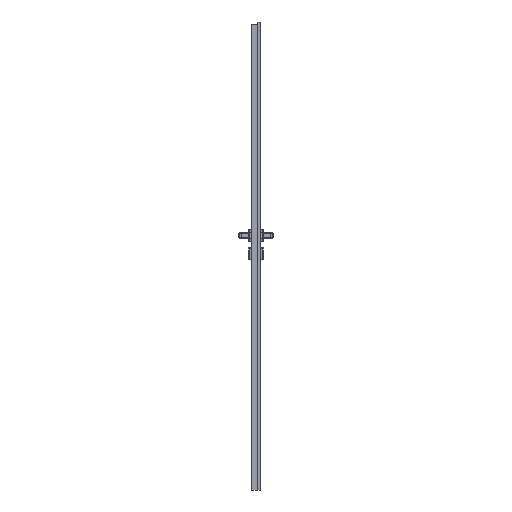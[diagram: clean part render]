
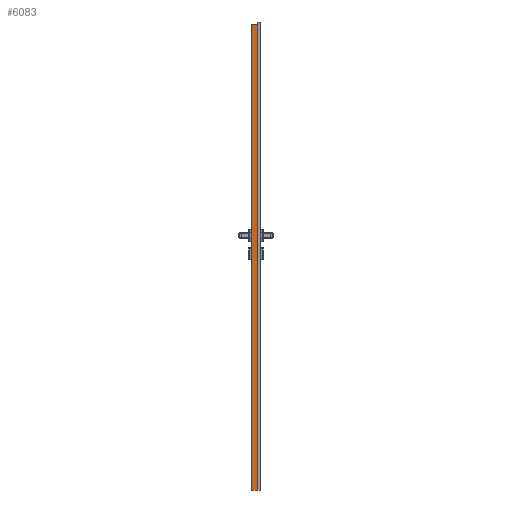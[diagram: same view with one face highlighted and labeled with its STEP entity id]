
A CAD part, left-side view. The second image highlights one B-rep face of the part: STEP entity #6083.
In plain terms, the highlighted planar face has unit normal (-1, 0, 0).
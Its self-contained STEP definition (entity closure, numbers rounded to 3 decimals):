
#3740=CIRCLE('',#42104,1.48);
#6083=ADVANCED_FACE('',(#9203),#7169,.F.);
#7169=PLANE('',#42242);
#9203=FACE_OUTER_BOUND('',#11459,.T.);
#11459=EDGE_LOOP('',(#22174,#22175,#22176,#22177,#22178));
#22174=ORIENTED_EDGE('',*,*,#31889,.F.);
#22175=ORIENTED_EDGE('',*,*,#31772,.T.);
#22176=ORIENTED_EDGE('',*,*,#31766,.T.);
#22177=ORIENTED_EDGE('',*,*,#31890,.F.);
#22178=ORIENTED_EDGE('',*,*,#31883,.T.);
#26332=VERTEX_POINT('',#71981);
#26333=VERTEX_POINT('',#71982);
#26337=VERTEX_POINT('',#71993);
#26379=VERTEX_POINT('',#72278);
#26380=VERTEX_POINT('',#72280);
#31766=EDGE_CURVE('',#26332,#26333,#35324,.T.);
#31772=EDGE_CURVE('',#26337,#26332,#3740,.T.);
#31883=EDGE_CURVE('',#26380,#26379,#35368,.T.);
#31889=EDGE_CURVE('',#26337,#26379,#35371,.T.);
#31890=EDGE_CURVE('',#26380,#26333,#35372,.T.);
#35324=LINE('',#71980,#38624);
#35368=LINE('',#72279,#38668);
#35371=LINE('',#72292,#38671);
#35372=LINE('',#72294,#38672);
#38624=VECTOR('',#52033,1.);
#38668=VECTOR('',#52339,1.);
#38671=VECTOR('',#52360,1.);
#38672=VECTOR('',#52363,1.);
#42104=AXIS2_PLACEMENT_3D('',#71992,#52043,#52044);
#42242=AXIS2_PLACEMENT_3D('',#72295,#52364,#52365);
#52033=DIRECTION('',(0.,1.,0.));
#52043=DIRECTION('',(1.,0.,0.));
#52044=DIRECTION('',(0.,0.,1.));
#52339=DIRECTION('',(0.,-1.,0.));
#52360=DIRECTION('',(0.,0.,-1.));
#52363=DIRECTION('',(0.,0.,1.));
#52364=DIRECTION('',(1.,0.,0.));
#52365=DIRECTION('',(0.,0.,-1.));
#71980=CARTESIAN_POINT('',(-309.,0.,2017.02));
#71981=CARTESIAN_POINT('',(-309.,-24.2,2017.02));
#71982=CARTESIAN_POINT('',(-309.,-1.65,2017.02));
#71992=CARTESIAN_POINT('',(-309.,-24.2,2018.5));
#71993=CARTESIAN_POINT('',(-309.,-24.649,2017.074));
#72278=CARTESIAN_POINT('',(-309.,-24.65,0.));
#72279=CARTESIAN_POINT('',(-309.,-24.65,0.));
#72280=CARTESIAN_POINT('',(-309.,-1.65,0.));
#72292=CARTESIAN_POINT('',(-309.,-24.65,0.));
#72294=CARTESIAN_POINT('',(-309.,-1.65,0.));
#72295=CARTESIAN_POINT('',(-309.,-24.65,0.));
